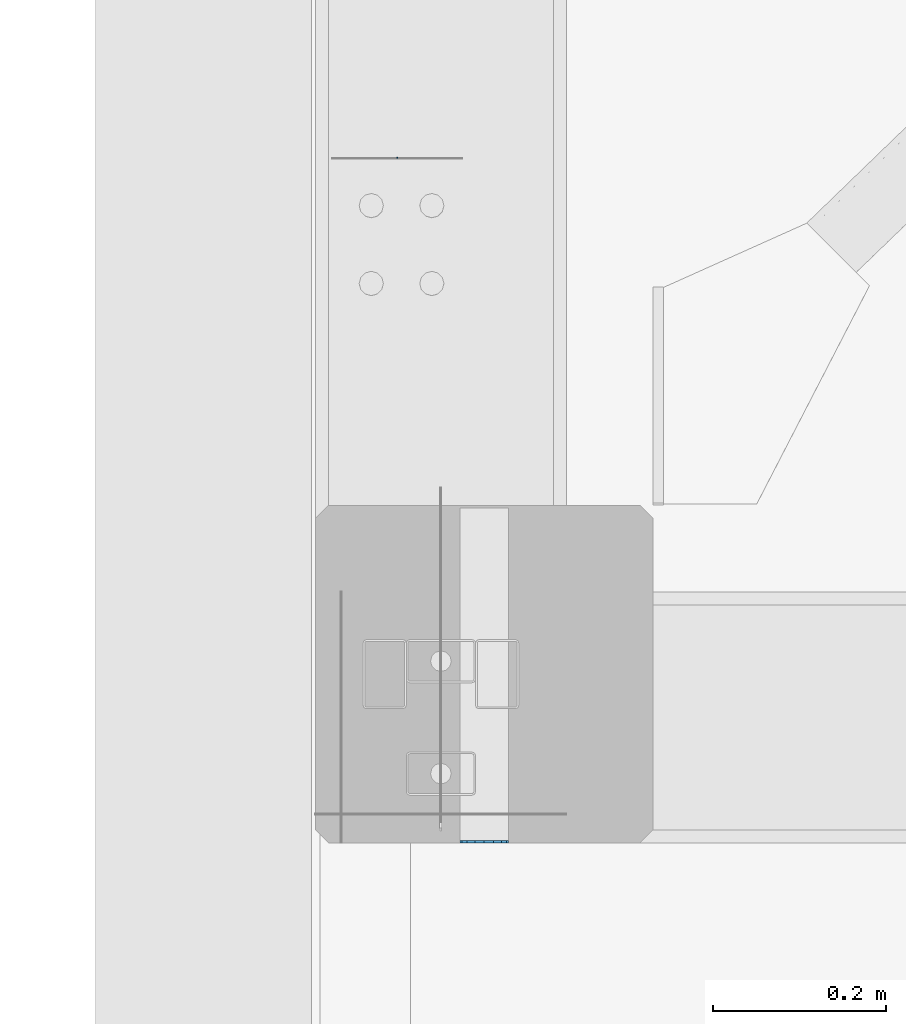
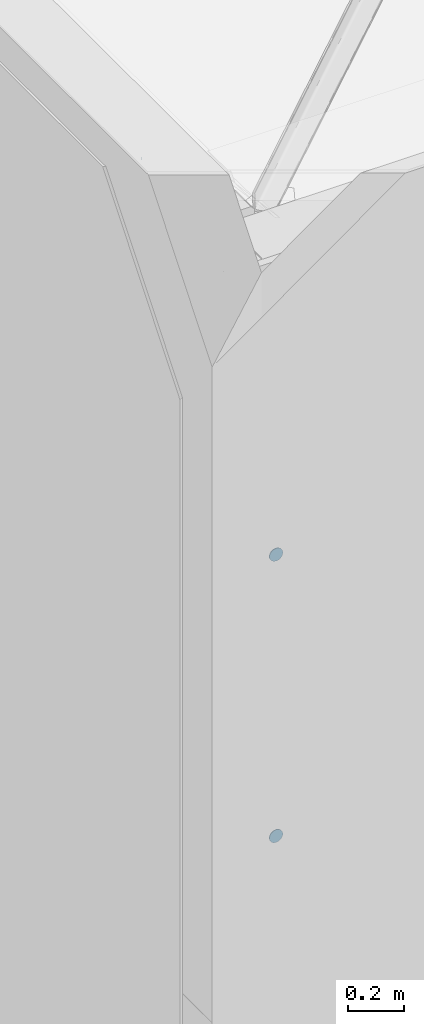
# One storey, part 61 of 186: 3 beams.
"""IFC4X3_ADD2 building model written with IfcOpenShell, lengths in millimetres."""

import ifcopenshell
import ifcopenshell.guid

model = None  # the IFC model being written
_history = None  # IfcOwnerHistory: only IFC2X3 demands one
_inside = {}  # id of a spatial element -> (the spatial element, [elements in it])
_under = {}  # id of a project, library or spatial element -> (it, [spatial elements below it])
_declared = {}  # id of a project -> (the project, [libraries it declares])
_typed = {}  # id of a type object -> (the type object, [elements of that type])
_made_of = {}  # id of a material, layer set ... -> (it, [elements and type objects made of it])


def new_model(schema):
    """Start an empty IFC model of exactly this schema.

    Asked for "IFC4X3", IfcOpenShell would pick the latest addendum, in which some entities
    have other attributes; the version numbers below select the first issue.
    IFC2X3 requires an IfcOwnerHistory on every rooted entity: one is made here for all.
    """
    global model, _history
    if schema == "IFC4X3":
        model = ifcopenshell.file(schema_version=(4, 3, 0, 0))
    else:
        model = ifcopenshell.file(schema=schema)
    _inside.clear()
    _under.clear()
    _declared.clear()
    _typed.clear()
    _made_of.clear()
    _history = None
    if model.schema == "IFC2X3":
        org = make("IfcOrganization", Name="unknown")
        user = make(
            "IfcPersonAndOrganization",
            ThePerson=make("IfcPerson", FamilyName="unknown"),
            TheOrganization=org,
        )
        app = make(
            "IfcApplication",
            ApplicationDeveloper=org,
            Version="unknown",
            ApplicationFullName="unknown",
            ApplicationIdentifier="unknown",
        )
        _history = make(
            "IfcOwnerHistory",
            OwningUser=user,
            OwningApplication=app,
            ChangeAction="ADDED",
            CreationDate=0,
        )
    return model


def make(cls, **values):
    """One entity of the class cls with the attributes given. An attribute that is None is left unset."""
    return model.create_entity(
        cls, **{name: value for name, value in values.items() if value is not None}
    )


def rooted(cls, **values):
    """An entity with a GlobalId (a new one), such as an element, a storey or a relation."""
    return make(cls, GlobalId=ifcopenshell.guid.new(), OwnerHistory=_history, **values)


def si_unit(unit_type, name, prefix=None):
    """IfcSIUnit, for example si_unit("LENGTHUNIT", "METRE", prefix="MILLI")."""
    return make("IfcSIUnit", UnitType=unit_type, Prefix=prefix, Name=name)


def assignment(units):
    """IfcUnitAssignment: the units of a project."""
    return None if units is None else make("IfcUnitAssignment", Units=units)


def point(xyz):
    """IfcCartesianPoint."""
    return None if xyz is None else make("IfcCartesianPoint", Coordinates=xyz)


def direction(xyz):
    """IfcDirection."""
    return None if xyz is None else make("IfcDirection", DirectionRatios=xyz)


def frame(location, z_axis=None, x_axis=None):
    """IfcAxis2Placement3D, a coordinate frame: its origin and axes. An axis left out is left unset."""
    return make(
        "IfcAxis2Placement3D",
        Location=point(location),
        Axis=direction(z_axis),
        RefDirection=direction(x_axis),
    )


def frame_2d(location, x_axis=None):
    """IfcAxis2Placement2D, a coordinate frame in the plane: its origin and x axis."""
    return make(
        "IfcAxis2Placement2D", Location=point(location), RefDirection=direction(x_axis)
    )


def origin_with_axes():
    """The frame at (0, 0, 0) with the z axis (0, 0, 1) and the x axis (1, 0, 0) written out."""
    return frame((0.0, 0.0, 0.0), z_axis=(0.0, 0.0, 1.0), x_axis=(1.0, 0.0, 0.0))


def place(relative_to, where):
    """IfcLocalPlacement: puts the frame where relative to a parent placement (None: the world)."""
    return make(
        "IfcLocalPlacement", PlacementRelTo=relative_to, RelativePlacement=where
    )


def context(
    kind, dimensions, precision=None, world=None, true_north=None, identifier=None
):
    """IfcGeometricRepresentationContext, for example the 3D "Model" context."""
    return make(
        "IfcGeometricRepresentationContext",
        ContextIdentifier=identifier,
        ContextType=kind,
        CoordinateSpaceDimension=dimensions,
        Precision=precision,
        WorldCoordinateSystem=world,
        TrueNorth=true_north,
    )


def subcontext(parent, identifier, kind, view, scale=None):
    """IfcGeometricRepresentationSubContext, for example "Body" below "Model"."""
    return make(
        "IfcGeometricRepresentationSubContext",
        ContextIdentifier=identifier,
        ContextType=kind,
        ParentContext=parent,
        TargetScale=scale,
        TargetView=view,
    )


def project(units=None, contexts=None):
    """IfcProject with its units and contexts."""
    return rooted(
        "IfcProject",
        Name="project",
        RepresentationContexts=contexts,
        UnitsInContext=assignment(units),
    )


def spatial(cls, under=None, at=None, **own):
    """A site, building, storey or space (cls), placed at a placement, below another one or the project."""
    s = rooted(cls, ObjectPlacement=at, **own)
    if under is not None:
        _under.setdefault(under.id(), (under, []))[1].append(s)
    return s


def point_list(points):
    """IfcCartesianPointList2D or 3D."""
    cls = (
        "IfcCartesianPointList2D" if len(points[0]) == 2 else "IfcCartesianPointList3D"
    )
    return make(cls, CoordList=points)


def indexed_curve(points, segments=None, self_intersect=None):
    """IfcIndexedPolyCurve: lines and arcs through numbered points (the first is 1)."""
    return make(
        "IfcIndexedPolyCurve",
        Points=point_list(points),
        Segments=segments,
        SelfIntersect=self_intersect,
    )


def profile(cls, at=None, kind="AREA", **sizes):
    """A parametric profile (cls). Its sizes go by their IFC names, for example OverallWidth=200.0."""
    return make(cls, ProfileType=kind, Position=at, **sizes)


def rectangle(**sizes):
    """IfcRectangleProfileDef."""
    return profile("IfcRectangleProfileDef", **sizes)


def outline(outer, holes=None, kind="AREA"):
    """IfcArbitraryClosedProfileDef: a profile drawn as a closed curve; with holes, ...WithVoids."""
    if holes is None:
        return make("IfcArbitraryClosedProfileDef", ProfileType=kind, OuterCurve=outer)
    return make(
        "IfcArbitraryProfileDefWithVoids",
        ProfileType=kind,
        OuterCurve=outer,
        InnerCurves=holes,
    )


def extrude(swept, where, along, depth):
    """IfcExtrudedAreaSolid: the profile swept, set in the frame where, extruded along a direction by depth."""
    return make(
        "IfcExtrudedAreaSolid",
        SweptArea=swept,
        Position=where,
        ExtrudedDirection=direction(along),
        Depth=depth,
    )


def shape(context_of_items, identifier, shape_type, items):
    """IfcShapeRepresentation: the items that make up one representation, for example the "Body"."""
    return make(
        "IfcShapeRepresentation",
        ContextOfItems=context_of_items,
        RepresentationIdentifier=identifier,
        RepresentationType=shape_type,
        Items=items,
    )


def material(Name=None, Category=None):
    """IfcMaterial."""
    return make("IfcMaterial", Name=Name, Category=Category)


def made_of(thing, what):
    """Note that an element or type object is made of a material, layer set ...; save() writes the relation."""
    if what is not None:
        _made_of.setdefault(what.id(), (what, []))[1].append(thing)
    return thing


def element(
    cls,
    number,
    at=None,
    inside=None,
    cuts=None,
    type_object=None,
    material=None,
    context=None,
    identifier="Body",
    shape_type=None,
    held_by="IfcProductDefinitionShape",
    body=None,
    shapes=None,
    **own,
):
    """One element of the class cls, such as IfcWall. Its Tag is "e" and its number.

    at: its placement. inside: the storey or other place that contains it. cuts: it is an
    opening in that element (IfcRelVoidsElement). A single representation is given by context,
    identifier, shape_type and body (its items); several are given by shapes. held_by: the class
    of the entity that holds the representations. save() writes the other relations.
    """
    e = rooted(cls, Tag="e%d" % number, ObjectPlacement=at, **own)
    if body is not None:
        shapes = [shape(context, identifier, shape_type, body)]
    if shapes is not None:
        e.Representation = make(held_by, Representations=shapes)
    if inside is not None:
        _inside.setdefault(inside.id(), (inside, []))[1].append(e)
    if cuts is not None:
        rooted(
            "IfcRelVoidsElement", RelatingBuildingElement=cuts, RelatedOpeningElement=e
        )
    if type_object is not None:
        _typed.setdefault(type_object.id(), (type_object, []))[1].append(e)
    return made_of(e, material)


def aggregate(whole, parts):
    """IfcRelAggregates: a whole, such as a stair, and the parts it consists of."""
    return rooted("IfcRelAggregates", RelatingObject=whole, RelatedObjects=parts)


def save(model, path):
    """Write the relations noted so far, then the file.

    IfcRelAggregates (storeys below a building ...), IfcRelContainedInSpatialStructure (elements
    in a storey), IfcRelDefinesByType, IfcRelAssociatesMaterial and IfcRelDeclares: one each for
    every whole, place, type object, material and project.
    """
    for whole, parts in _under.values():
        aggregate(whole, parts)
    for where, things in _inside.values():
        rooted(
            "IfcRelContainedInSpatialStructure",
            RelatedElements=things,
            RelatingStructure=where,
        )
    for kind, things in _typed.values():
        rooted("IfcRelDefinesByType", RelatedObjects=things, RelatingType=kind)
    for what, things in _made_of.values():
        rooted("IfcRelAssociatesMaterial", RelatedObjects=things, RelatingMaterial=what)
    for by, libraries in _declared.values():
        rooted("IfcRelDeclares", RelatingContext=by, RelatedDefinitions=libraries)
    model.write(path)


model = new_model("IFC4X3_ADD2")

# Units and contexts
model_context = context("Model", 3, precision=1e-05, world=origin_with_axes(), true_north=direction((0.0, 1.0)))
body_context = subcontext(model_context, "Body", "Model", "MODEL_VIEW")
ifc_project = project(units=[si_unit("LENGTHUNIT", "METRE", prefix="MILLI"), si_unit("AREAUNIT", "SQUARE_METRE"), si_unit("VOLUMEUNIT", "CUBIC_METRE"), si_unit("PLANEANGLEUNIT", "RADIAN"), si_unit("TIMEUNIT", "SECOND"), si_unit("MASSUNIT", "GRAM")], contexts=[model_context])

# Site, building, storey
site_placement = place(None, origin_with_axes())
site = spatial("IfcSite", under=ifc_project, at=site_placement, Name="Site", CompositionType="ELEMENT")
building_placement = place(site_placement, origin_with_axes())
building = spatial("IfcBuilding", under=site, at=building_placement, Name="IFC Building Story")
storey_placement = place(building_placement, frame((0.0, 0.0, 4370.0), z_axis=(0.0, 0.0, 1.0), x_axis=(1.0, 0.0, 0.0)))
storey = spatial("IfcBuildingStorey", under=building, at=storey_placement, Name="ETAGE 10 (1)", Elevation=4370.0)

# Beams
ifc_material_1 = material(Name="STEEL/Accessory_invisible")
beam_placement = place(storey_placement, frame((33301.183164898, -13668.0446684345, 3357.374211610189), z_axis=(-1.0, 0.0, 0.0), x_axis=(0.0, 0.01500926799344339, 0.9998873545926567)))
element("IfcBeam", 1, at=beam_placement, inside=storey, material=ifc_material_1, Name="ZW1", ObjectType="1*1 12", context=body_context, shape_type="SweptSolid", body=[
    extrude(rectangle(XDim=10.0, YDim=1.00000000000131, at=frame_2d((0.0, 5.95523630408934e-12), x_axis=(1.0, 0.0))), origin_with_axes(), (0.0, 0.0, 1.0), 1.0),
])
ifc_material_2 = material(Name="STEEL/Accessory 22919")
for number, where, z_axis, x_axis, name in (
    (2, (33401.18800000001, -14456.99999999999, 839.9999999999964), (0.0, -1.0, 0.0), (-0.1950903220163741, 0.0, 0.9807852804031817), "TA4"),
    (3, (33401.18800000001, -14456.99999999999, 2069.999999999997), (0.0, -1.0, 0.0), (-0.1950903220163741, 0.0, 0.9807852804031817), "TA4"),
):
    element("IfcBeam", number, at=place(storey_placement, frame(where, z_axis=z_axis, x_axis=x_axis)), inside=storey, material=ifc_material_2, Name=name, ObjectType="D56", context=body_context, shape_type="SweptSolid", body=[
        extrude(outline(indexed_curve([(23.28114914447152, 15.55596652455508), (27.46198785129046, 5.462529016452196), (27.46198785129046, -5.462529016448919), (23.28114914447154, -15.55596652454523), (15.55596652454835, -23.28114914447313), (5.462529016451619, -27.46198785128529), (-5.462529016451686, -27.46198785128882), (-15.55596652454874, -23.28114914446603), (-23.2811491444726, -15.55596652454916), (-27.46198785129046, -5.462529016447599), (-27.46198785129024, 5.462529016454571), (-23.28114914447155, 15.55596652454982), (-15.55596652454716, 23.28114914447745), (-5.462529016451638, 27.46198785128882), (5.462529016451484, 27.46198785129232), (15.55596652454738, 23.28114914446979), (23.28114914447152, 15.55596652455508)])), origin_with_axes(), (0.0, 0.0, 1.0), 3.000000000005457),
    ])

save(model, "model.ifc")
